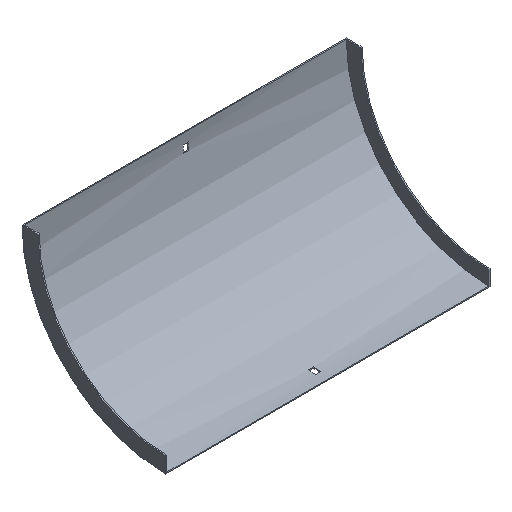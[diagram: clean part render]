
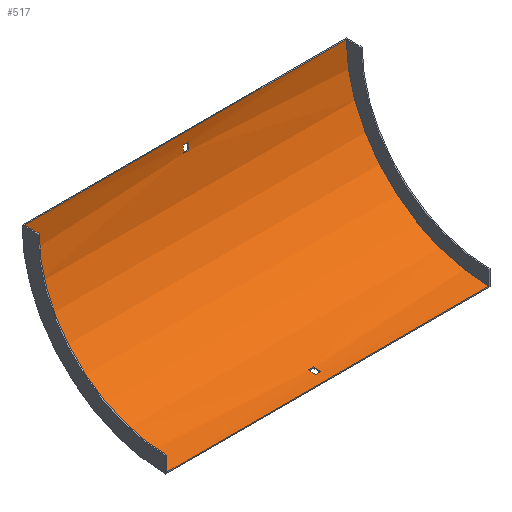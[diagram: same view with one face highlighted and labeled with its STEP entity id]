
A CAD part, isometric view. The second image highlights one B-rep face of the part: STEP entity #517.
In plain terms, the highlighted cylindrical face has radius 179 mm (diameter 358 mm), a partial arc.
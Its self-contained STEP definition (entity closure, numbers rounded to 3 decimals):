
#11 = FACE_BOUND ( 'NONE', #397, .T. ) ;
#19 = EDGE_CURVE ( 'NONE', #520, #418, #538, .T. ) ;
#21 = ORIENTED_EDGE ( 'NONE', *, *, #53, .T. ) ;
#23 = CARTESIAN_POINT ( 'NONE',  ( 3.25, -180.5, 0. ) ) ;
#31 = CIRCLE ( 'NONE', #110, 179. ) ;
#32 = DIRECTION ( 'NONE',  ( 1., 0., 0. ) ) ;
#34 = VECTOR ( 'NONE', #289, 1000. ) ;
#39 = VERTEX_POINT ( 'NONE', #491 ) ;
#40 = EDGE_CURVE ( 'NONE', #249, #39, #284, .T. ) ;
#41 = DIRECTION ( 'NONE',  ( 0., 0., 1. ) ) ;
#42 = ORIENTED_EDGE ( 'NONE', *, *, #158, .F. ) ;
#44 = VECTOR ( 'NONE', #231, 1000. ) ;
#53 = EDGE_CURVE ( 'NONE', #185, #249, #31, .T. ) ;
#60 = DIRECTION ( 'NONE',  ( -1., 0., 0. ) ) ;
#63 = DIRECTION ( 'NONE',  ( 0., 0., 1. ) ) ;
#67 = CARTESIAN_POINT ( 'NONE',  ( 203.5, -159.5, -177.764 ) ) ;
#79 = ORIENTED_EDGE ( 'NONE', *, *, #228, .F. ) ;
#95 = EDGE_CURVE ( 'NONE', #405, #520, #148, .T. ) ;
#103 = DIRECTION ( 'NONE',  ( 1., 0., 0. ) ) ;
#110 = AXIS2_PLACEMENT_3D ( 'NONE', #530, #483, #63 ) ;
#114 = CARTESIAN_POINT ( 'NONE',  ( -3.25, -168.5, -178.597 ) ) ;
#117 = AXIS2_PLACEMENT_3D ( 'NONE', #359, #265, #349 ) ;
#122 = CARTESIAN_POINT ( 'NONE',  ( 3.25, -168.5, -178.597 ) ) ;
#130 = DIRECTION ( 'NONE',  ( 0., 0., 1. ) ) ;
#133 = ORIENTED_EDGE ( 'NONE', *, *, #247, .F. ) ;
#148 = CIRCLE ( 'NONE', #494, 179. ) ;
#158 = EDGE_CURVE ( 'NONE', #272, #267, #314, .T. ) ;
#177 = ORIENTED_EDGE ( 'NONE', *, *, #19, .T. ) ;
#184 = LINE ( 'NONE', #569, #44 ) ;
#185 = VERTEX_POINT ( 'NONE', #547 ) ;
#194 = VERTEX_POINT ( 'NONE', #350 ) ;
#203 = FACE_BOUND ( 'NONE', #607, .T. ) ;
#214 = DIRECTION ( 'NONE',  ( 0., 0., -1. ) ) ;
#223 = LINE ( 'NONE', #233, #330 ) ;
#228 = EDGE_CURVE ( 'NONE', #580, #272, #526, .T. ) ;
#231 = DIRECTION ( 'NONE',  ( -1., 0., 0. ) ) ;
#233 = CARTESIAN_POINT ( 'NONE',  ( 203.5, -1.903, -12. ) ) ;
#235 = CARTESIAN_POINT ( 'NONE',  ( -3.25, -2.736, -21. ) ) ;
#240 = AXIS2_PLACEMENT_3D ( 'NONE', #313, #501, #214 ) ;
#242 = EDGE_CURVE ( 'NONE', #463, #580, #223, .T. ) ;
#243 = CARTESIAN_POINT ( 'NONE',  ( 3.25, -159.5, -177.764 ) ) ;
#244 = VERTEX_POINT ( 'NONE', #524 ) ;
#245 = CARTESIAN_POINT ( 'NONE',  ( 3.25, -1.903, -12. ) ) ;
#247 = EDGE_CURVE ( 'NONE', #185, #194, #184, .T. ) ;
#249 = VERTEX_POINT ( 'NONE', #318 ) ;
#251 = AXIS2_PLACEMENT_3D ( 'NONE', #596, #552, #41 ) ;
#256 = CARTESIAN_POINT ( 'NONE',  ( 3.25, -180.5, 0. ) ) ;
#265 = DIRECTION ( 'NONE',  ( -1., 0., 0. ) ) ;
#267 = VERTEX_POINT ( 'NONE', #514 ) ;
#272 = VERTEX_POINT ( 'NONE', #235 ) ;
#283 = DIRECTION ( 'NONE',  ( 0., 0., -1. ) ) ;
#284 = LINE ( 'NONE', #481, #434 ) ;
#289 = DIRECTION ( 'NONE',  ( 1., 0., 0. ) ) ;
#305 = CARTESIAN_POINT ( 'NONE',  ( -202., -180.5, 0. ) ) ;
#311 = VECTOR ( 'NONE', #502, 1000. ) ;
#313 = CARTESIAN_POINT ( 'NONE',  ( -3.25, -180.5, 0. ) ) ;
#314 = LINE ( 'NONE', #593, #311 ) ;
#318 = CARTESIAN_POINT ( 'NONE',  ( 202., -1.5, 0. ) ) ;
#319 = DIRECTION ( 'NONE',  ( -1., 0., 0. ) ) ;
#329 = ORIENTED_EDGE ( 'NONE', *, *, #95, .T. ) ;
#330 = VECTOR ( 'NONE', #319, 1000. ) ;
#335 = LINE ( 'NONE', #67, #34 ) ;
#349 = DIRECTION ( 'NONE',  ( 0., 0., 1. ) ) ;
#350 = CARTESIAN_POINT ( 'NONE',  ( -202., -180.5, -179. ) ) ;
#352 = CIRCLE ( 'NONE', #435, 179. ) ;
#357 = EDGE_LOOP ( 'NONE', ( #381, #133, #21, #386 ) ) ;
#359 = CARTESIAN_POINT ( 'NONE',  ( 203.5, -180.5, 0. ) ) ;
#381 = ORIENTED_EDGE ( 'NONE', *, *, #523, .F. ) ;
#386 = ORIENTED_EDGE ( 'NONE', *, *, #40, .T. ) ;
#388 = DIRECTION ( 'NONE',  ( -1., 0., 0. ) ) ;
#394 = CIRCLE ( 'NONE', #240, 179. ) ;
#397 = EDGE_LOOP ( 'NONE', ( #177, #456, #508, #329 ) ) ;
#401 = DIRECTION ( 'NONE',  ( 0., 0., 1. ) ) ;
#405 = VERTEX_POINT ( 'NONE', #243 ) ;
#418 = VERTEX_POINT ( 'NONE', #114 ) ;
#420 = ORIENTED_EDGE ( 'NONE', *, *, #469, .F. ) ;
#428 = EDGE_CURVE ( 'NONE', #244, #405, #335, .T. ) ;
#434 = VECTOR ( 'NONE', #60, 1000. ) ;
#435 = AXIS2_PLACEMENT_3D ( 'NONE', #23, #103, #283 ) ;
#456 = ORIENTED_EDGE ( 'NONE', *, *, #579, .T. ) ;
#463 = VERTEX_POINT ( 'NONE', #245 ) ;
#469 = EDGE_CURVE ( 'NONE', #267, #463, #352, .T. ) ;
#481 = CARTESIAN_POINT ( 'NONE',  ( 202., -1.5, 0. ) ) ;
#483 = DIRECTION ( 'NONE',  ( 1., 0., 0. ) ) ;
#491 = CARTESIAN_POINT ( 'NONE',  ( -202., -1.5, 0. ) ) ;
#494 = AXIS2_PLACEMENT_3D ( 'NONE', #256, #599, #130 ) ;
#501 = DIRECTION ( 'NONE',  ( 1., 0., 0. ) ) ;
#502 = DIRECTION ( 'NONE',  ( 1., 0., 0. ) ) ;
#508 = ORIENTED_EDGE ( 'NONE', *, *, #428, .T. ) ;
#513 = ORIENTED_EDGE ( 'NONE', *, *, #242, .F. ) ;
#514 = CARTESIAN_POINT ( 'NONE',  ( 3.25, -2.736, -21. ) ) ;
#517 = ADVANCED_FACE ( 'NONE', ( #203, #584, #11 ), #551, .F. ) ;
#520 = VERTEX_POINT ( 'NONE', #122 ) ;
#523 = EDGE_CURVE ( 'NONE', #194, #39, #603, .T. ) ;
#524 = CARTESIAN_POINT ( 'NONE',  ( -3.25, -159.5, -177.764 ) ) ;
#526 = CIRCLE ( 'NONE', #251, 179. ) ;
#530 = CARTESIAN_POINT ( 'NONE',  ( 202., -180.5, 0. ) ) ;
#538 = LINE ( 'NONE', #588, #562 ) ;
#547 = CARTESIAN_POINT ( 'NONE',  ( 202., -180.5, -179. ) ) ;
#551 = CYLINDRICAL_SURFACE ( 'NONE', #117, 179. ) ;
#552 = DIRECTION ( 'NONE',  ( -1., 0., 0. ) ) ;
#562 = VECTOR ( 'NONE', #388, 1000. ) ;
#569 = CARTESIAN_POINT ( 'NONE',  ( 202., -180.5, -179. ) ) ;
#579 = EDGE_CURVE ( 'NONE', #418, #244, #394, .T. ) ;
#580 = VERTEX_POINT ( 'NONE', #592 ) ;
#583 = AXIS2_PLACEMENT_3D ( 'NONE', #305, #32, #401 ) ;
#584 = FACE_OUTER_BOUND ( 'NONE', #357, .T. ) ;
#588 = CARTESIAN_POINT ( 'NONE',  ( 203.5, -168.5, -178.597 ) ) ;
#592 = CARTESIAN_POINT ( 'NONE',  ( -3.25, -1.903, -12. ) ) ;
#593 = CARTESIAN_POINT ( 'NONE',  ( 203.5, -2.736, -21. ) ) ;
#596 = CARTESIAN_POINT ( 'NONE',  ( -3.25, -180.5, 0. ) ) ;
#599 = DIRECTION ( 'NONE',  ( -1., 0., 0. ) ) ;
#603 = CIRCLE ( 'NONE', #583, 179. ) ;
#607 = EDGE_LOOP ( 'NONE', ( #79, #513, #420, #42 ) ) ;
